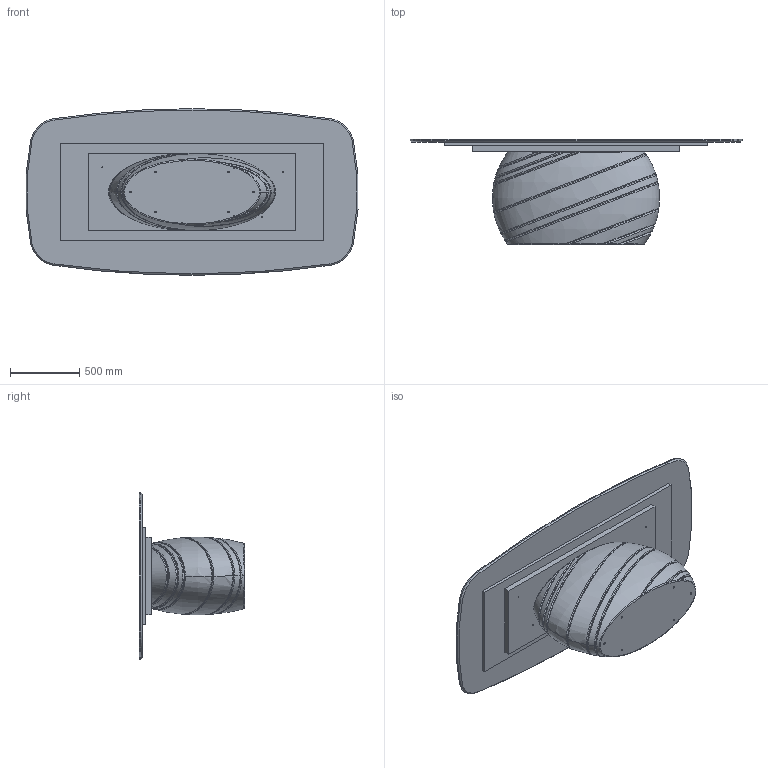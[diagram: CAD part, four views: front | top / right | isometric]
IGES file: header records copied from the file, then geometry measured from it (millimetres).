
Start section: SolidWorks IGES file using analytic representation for surfaces
Global section: file name: Y:\eforma\TECNICO\SOLIDWORKS\E-FORMA\1-TAVOLI\GIOVE\08 modelli 3D web\marmo 240x120 sag.IGS; native system: SolidWorks 2022; preprocessor: SolidWorks 2022; author: eforma.tech; date: 250526.160508; units: millimetre
Bounding box: 2391.62 x 757 x 1200 mm (x, y, z)
Volume: 436101506.5 mm3; surface area: 12801853.2 mm2
Topology: 4 solids, 4 shells, 176 faces, 427 edges, 274 vertices
Faces by surface type: revolution 86, bspline 53, plane 37
